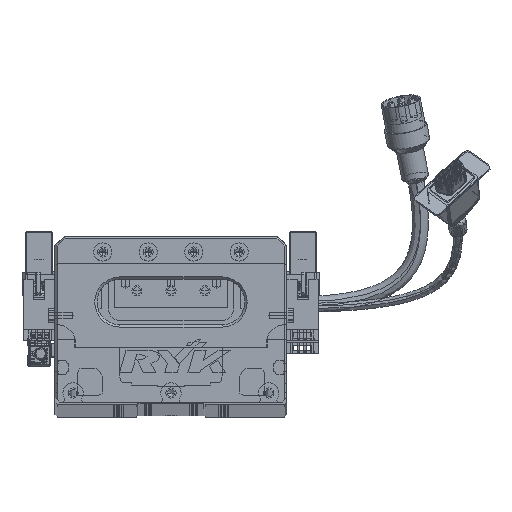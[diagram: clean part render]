
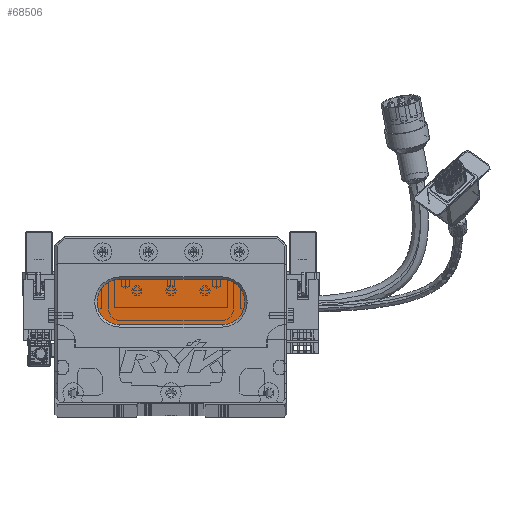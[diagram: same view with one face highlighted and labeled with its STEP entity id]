
A CAD part, top view. The second image highlights one B-rep face of the part: STEP entity #68506.
In plain terms, the highlighted planar face has unit normal (0, 0, 1) as drawn and (0, 0, -1) by its records, which use the part's own axes.
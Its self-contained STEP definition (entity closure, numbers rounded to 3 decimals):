
#2419 = DIRECTION ( 'NONE',  ( 1., 0., 0. ) ) ;
#3277 = CARTESIAN_POINT ( 'NONE',  ( 28.5, 44., 13. ) ) ;
#6335 = CARTESIAN_POINT ( 'NONE',  ( 28.5, 34., 13. ) ) ;
#15575 = DIRECTION ( 'NONE',  ( 0., 0., -1. ) ) ;
#16837 = CIRCLE ( 'NONE', #41994, 10. ) ;
#17591 = CARTESIAN_POINT ( 'NONE',  ( 73.5, 34., 13. ) ) ;
#20840 = DIRECTION ( 'NONE',  ( -1., 0., 0. ) ) ;
#21387 = EDGE_LOOP ( 'NONE', ( #37062, #46918, #57278, #23909, #72571 ) ) ;
#23909 = ORIENTED_EDGE ( 'NONE', *, *, #89526, .T. ) ;
#24638 = AXIS2_PLACEMENT_3D ( 'NONE', #85239, #56845, #20840 ) ;
#24813 = DIRECTION ( 'NONE',  ( 0., 0., -1. ) ) ;
#25065 = CIRCLE ( 'NONE', #40050, 10. ) ;
#27141 = VERTEX_POINT ( 'NONE', #6335 ) ;
#28073 = VERTEX_POINT ( 'NONE', #17591 ) ;
#37062 = ORIENTED_EDGE ( 'NONE', *, *, #69951, .T. ) ;
#39111 = DIRECTION ( 'NONE',  ( -1., 0., 0. ) ) ;
#40050 = AXIS2_PLACEMENT_3D ( 'NONE', #84721, #56043, #49242 ) ;
#41994 = AXIS2_PLACEMENT_3D ( 'NONE', #3277, #24813, #39111 ) ;
#42118 = FACE_OUTER_BOUND ( 'NONE', #21387, .T. ) ;
#43285 = EDGE_CURVE ( 'NONE', #28073, #27141, #57672, .T. ) ;
#44726 = VERTEX_POINT ( 'NONE', #53547 ) ;
#46918 = ORIENTED_EDGE ( 'NONE', *, *, #43285, .T. ) ;
#47931 = CIRCLE ( 'NONE', #24638, 10. ) ;
#49242 = DIRECTION ( 'NONE',  ( -1., 0., 0. ) ) ;
#50139 = AXIS2_PLACEMENT_3D ( 'NONE', #57821, #15575, #50729 ) ;
#50729 = DIRECTION ( 'NONE',  ( -1., 0., 0. ) ) ;
#52774 = DIRECTION ( 'NONE',  ( -1., 0., 0. ) ) ;
#53547 = CARTESIAN_POINT ( 'NONE',  ( 28.5, 54., 13. ) ) ;
#54761 = VERTEX_POINT ( 'NONE', #56721 ) ;
#56043 = DIRECTION ( 'NONE',  ( 0., 0., -1. ) ) ;
#56721 = CARTESIAN_POINT ( 'NONE',  ( 73.5, 54., 13. ) ) ;
#56845 = DIRECTION ( 'NONE',  ( 0., 0., -1. ) ) ;
#57278 = ORIENTED_EDGE ( 'NONE', *, *, #80852, .T. ) ;
#57672 = LINE ( 'NONE', #68371, #58747 ) ;
#57821 = CARTESIAN_POINT ( 'NONE',  ( 73.5, 44., 13. ) ) ;
#58747 = VECTOR ( 'NONE', #52774, 1000. ) ;
#63560 = EDGE_CURVE ( 'NONE', #44726, #54761, #73478, .T. ) ;
#68371 = CARTESIAN_POINT ( 'NONE',  ( 73.5, 34., 13. ) ) ;
#68506 = ADVANCED_FACE ( 'NONE', ( #42118 ), #71613, .T. ) ;
#69951 = EDGE_CURVE ( 'NONE', #54761, #28073, #25065, .T. ) ;
#71274 = VECTOR ( 'NONE', #2419, 1000. ) ;
#71613 = PLANE ( 'NONE',  #50139 ) ;
#72571 = ORIENTED_EDGE ( 'NONE', *, *, #63560, .T. ) ;
#73478 = LINE ( 'NONE', #81200, #71274 ) ;
#76905 = CARTESIAN_POINT ( 'NONE',  ( 18.5, 44., 13. ) ) ;
#79394 = VERTEX_POINT ( 'NONE', #76905 ) ;
#80852 = EDGE_CURVE ( 'NONE', #27141, #79394, #16837, .T. ) ;
#81200 = CARTESIAN_POINT ( 'NONE',  ( 73.5, 54., 13. ) ) ;
#84721 = CARTESIAN_POINT ( 'NONE',  ( 73.5, 44., 13. ) ) ;
#85239 = CARTESIAN_POINT ( 'NONE',  ( 28.5, 44., 13. ) ) ;
#89526 = EDGE_CURVE ( 'NONE', #79394, #44726, #47931, .T. ) ;
